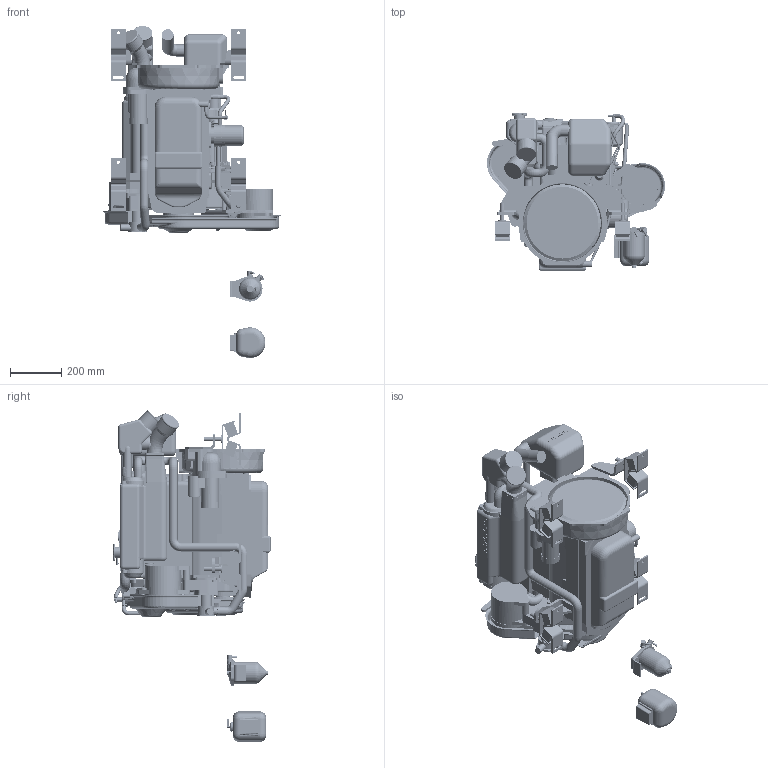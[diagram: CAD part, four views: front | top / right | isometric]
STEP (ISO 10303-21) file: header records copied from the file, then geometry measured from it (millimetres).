
FILE_DESCRIPTION(('CoCreate Modeling STEP Export'),'2;1');
FILE_NAME('4JH5E_BOBTAIL.stp','2013-04-12T 9:14:24',(''),(''),'CoCreate Modeling STEP processor for AP214 (Solid Model)','CoCreate Modeling 16.50A 01-Dec-2009 (C) Parametric Technology GmbH','');
FILE_SCHEMA(('AUTOMOTIVE_DESIGN { 1 0 10303 214 1 1 1 1 }'));
Length unit declared in the file: millimetre
Products named in the file (54): 4JH5E_001; 4JH5E_008; 4JH5E_028; 4JH5E_012; 4JH5E_011; 4JH5E_013; 4JH5E_014; 4JH5E_009; 4JH5E_019; 4JH5E_002; 4JH5E_033; 4JH5E_004; 4JH5E_003; 4JH5E_006; 4JH5E_005; 4JH5E_026; 4JH5E_027; 4JH5E_007; 4JH5E_010; 4JH5E_031; 4JH5E_015; 4JH5E_016; 4JH5E_032; 4JH5E_018; 4JH5E_022; 4JH5E_025; 4JH5E_023; 4JH5E_024; 4JH5E_017; 4JH5E_020; 4JH5E_021; 4JH5E_029; 4JH5E_030; Base; Mixing-elbow-type-2; Mixing-elbow-type-1; Mixing-elbow; 4JH5E_Engine_Bobtail; C.O.G._P1; C.O.G._P2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
Assembly tree (53 placements, depth 4):
  4JH5E_BOBTAIL
    4JH5E_Engine_Options
      4JH5E-option_004
      4JH5E-option_001
      4JH5E-option_002
      4JH5E-option_003
      4JH5E-option_007
      4JH5E-option_006
      4JH5E-option_005
    Center_of_gravity
      C.O.G._P5
      C.O.G._P6
      C.O.G._P4
      C.O.G._P3
      C.O.G._P2
      C.O.G._P1
    4JH5E_Engine_Bobtail
      Mixing-elbow
        Mixing-elbow-type-1
        Mixing-elbow-type-2
      Base
        4JH5E_030
        4JH5E_029
        4JH5E_021
        4JH5E_020
        4JH5E_017
        4JH5E_024
        4JH5E_023
        4JH5E_025
        4JH5E_022
        4JH5E_018
        4JH5E_032
        4JH5E_016
        4JH5E_015
        4JH5E_031
        4JH5E_010
        4JH5E_007
        4JH5E_027
        4JH5E_026
        4JH5E_005
        4JH5E_006
        4JH5E_003
        4JH5E_004
        4JH5E_033
        4JH5E_002
        4JH5E_019
        4JH5E_009
        4JH5E_014
        4JH5E_013
        4JH5E_011
        4JH5E_012
        4JH5E_028
        4JH5E_008
        4JH5E_001
Bounding box: 695.91 x 613.6 x 1296.7 mm (x, y, z)
Volume: 87406133.1 mm3; surface area: 5892127.3 mm2
Topology: 48 solids, 48 shells, 5185 faces, 13922 edges, 8952 vertices
Faces by surface type: cylinder 2354, plane 1984, torus 456, cone 140, bspline 91, sphere 86, extrusion 49, revolution 25
Entity records: 162711 total; most frequent: CARTESIAN_POINT 40739, ORIENTED_EDGE 27728, DIRECTION 22997, EDGE_CURVE 13864, VERTEX_POINT 8952, AXIS2_PLACEMENT_3D 8013, VECTOR 6950, LINE 6901
